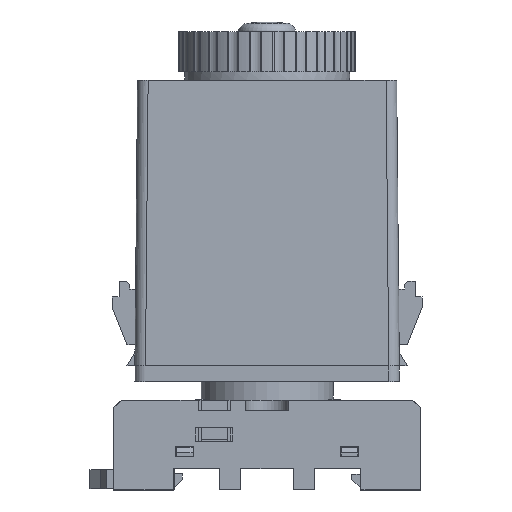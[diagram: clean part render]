
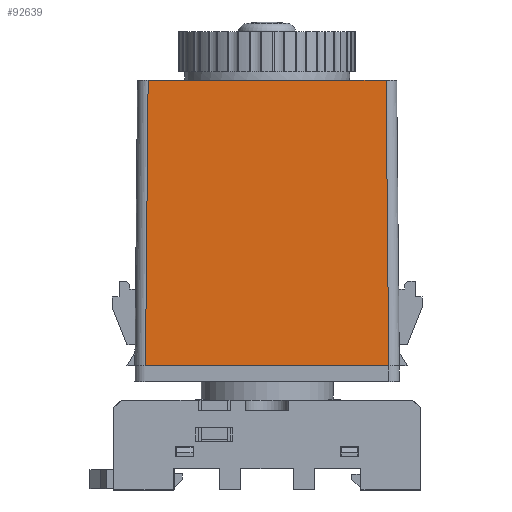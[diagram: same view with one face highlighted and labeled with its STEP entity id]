
A CAD part, left-side view. The second image highlights one B-rep face of the part: STEP entity #92639.
In plain terms, the highlighted planar face has unit normal (-1, 0, 0.009).
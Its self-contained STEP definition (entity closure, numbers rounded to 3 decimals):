
#92532=CARTESIAN_POINT('',(-17.5,-22.5,54.0));
#92533=VERTEX_POINT('',#92532);
#92541=CARTESIAN_POINT('',(-18.,-23.,0.0));
#92542=VERTEX_POINT('',#92541);
#92543=CARTESIAN_POINT('',(-17.5,-22.5,54.));
#92544=DIRECTION('',(-0.009,-0.009,-1.));
#92545=VECTOR('',#92544,54.005);
#92546=LINE('',#92543,#92545);
#92547=EDGE_CURVE('',#92533,#92542,#92546,.T.);
#92593=CARTESIAN_POINT('',(-18.,-25.,0.0));
#92594=DIRECTION('',(1.,0.,-0.009));
#92595=DIRECTION('',(-0.009,0.0,-1.));
#92596=AXIS2_PLACEMENT_3D('',#92593,#92594,#92595);
#92597=PLANE('',#92596);
#92598=CARTESIAN_POINT('',(-18.,23.,0.0));
#92599=VERTEX_POINT('',#92598);
#92600=CARTESIAN_POINT('',(-17.5,22.5,54.0));
#92601=VERTEX_POINT('',#92600);
#92602=CARTESIAN_POINT('',(-18.,23.,0.));
#92603=DIRECTION('',(0.009,-0.009,1.));
#92604=VECTOR('',#92603,54.005);
#92605=LINE('',#92602,#92604);
#92606=EDGE_CURVE('',#92599,#92601,#92605,.T.);
#92607=ORIENTED_EDGE('',*,*,#92606,.F.);
#92608=CARTESIAN_POINT('',(-18.,23.,0.));
#92609=VERTEX_POINT('',#92608);
#92610=CARTESIAN_POINT('',(-18.,23.,0.0));
#92611=DIRECTION('',(0.0,1.0,0.0));
#92612=VECTOR('',#92611,0.);
#92613=LINE('',#92610,#92612);
#92614=EDGE_CURVE('',#92609,#92599,#92613,.T.);
#92615=ORIENTED_EDGE('',*,*,#92614,.F.);
#92616=CARTESIAN_POINT('',(-18.0,-23.,0.));
#92617=VERTEX_POINT('',#92616);
#92618=CARTESIAN_POINT('',(-18.,-23.,0.0));
#92619=DIRECTION('',(0.0,1.0,0.0));
#92620=VECTOR('',#92619,46.);
#92621=LINE('',#92618,#92620);
#92622=EDGE_CURVE('',#92617,#92609,#92621,.T.);
#92623=ORIENTED_EDGE('',*,*,#92622,.F.);
#92624=CARTESIAN_POINT('',(-18.,-23.,0.0));
#92625=DIRECTION('',(0.0,1.0,0.0));
#92626=VECTOR('',#92625,0.);
#92627=LINE('',#92624,#92626);
#92628=EDGE_CURVE('',#92542,#92617,#92627,.T.);
#92629=ORIENTED_EDGE('',*,*,#92628,.F.);
#92630=ORIENTED_EDGE('',*,*,#92547,.F.);
#92631=CARTESIAN_POINT('',(-17.5,-22.5,54.0));
#92632=DIRECTION('',(0.0,1.0,0.0));
#92633=VECTOR('',#92632,45.);
#92634=LINE('',#92631,#92633);
#92635=EDGE_CURVE('',#92533,#92601,#92634,.T.);
#92636=ORIENTED_EDGE('',*,*,#92635,.T.);
#92637=EDGE_LOOP('',(#92607,#92615,#92623,#92629,#92630,#92636));
#92638=FACE_OUTER_BOUND('',#92637,.T.);
#92639=ADVANCED_FACE('',(#92638),#92597,.F.);
